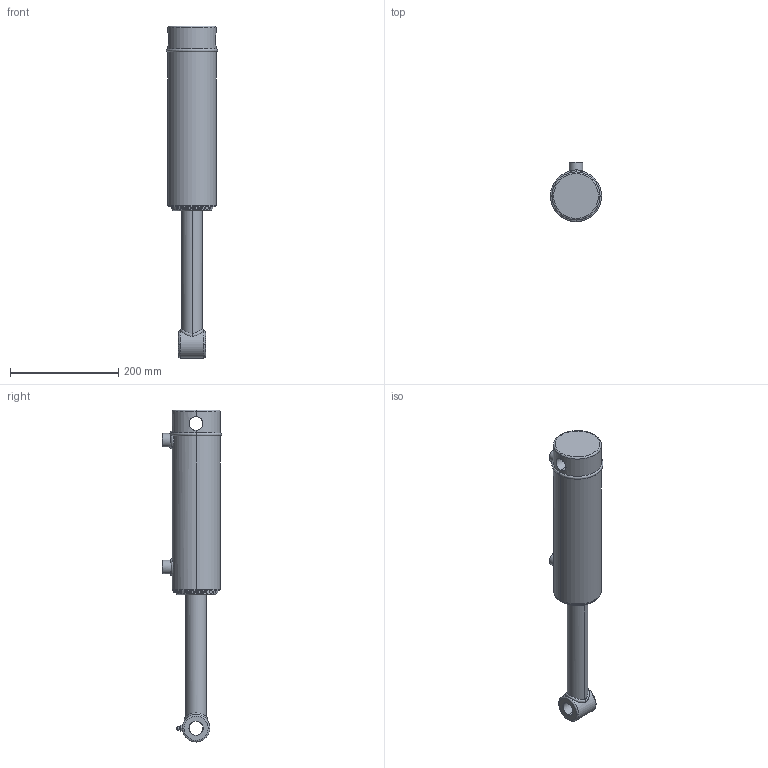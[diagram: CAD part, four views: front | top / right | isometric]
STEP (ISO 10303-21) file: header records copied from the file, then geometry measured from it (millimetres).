
FILE_DESCRIPTION (( 'STEP AP203' ), '1' );
FILE_NAME ('SB-C3001550x203 (8) extended.STEP', '2014-11-19T21:04:27', ( '' ), ( '' ), 'SwSTEP 2.0', 'SolidWorks 2014', '' );
FILE_SCHEMA (( 'CONFIG_CONTROL_DESIGN' ));
Length unit declared in the file: millimetre
Products named in the file (7): 3 inch circlip; SB-C3001550x203 (8) body; 8 SPARE; 18 NPT GREASE NIPPLE; SPARE 8; SB-C3001550x203 (8) extended; SB-C300150x203 (8) BODY
Assembly tree (6 placements, depth 3):
  SB-C3001550x203 (8) extended
    SB-C3001550x203 (8) body
      SB-C300150x203 (8) BODY
      3 inch circlip
    SPARE 8
      8 SPARE
      18 NPT GREASE NIPPLE
Bounding box: 94.9 x 109.9 x 614.4 mm (x, y, z)
Volume: 2199986.5 mm3; surface area: 204518.9 mm2
Topology: 4 solids, 4 shells, 133 faces, 306 edges, 190 vertices
Faces by surface type: cylinder 51, plane 29, cone 22, bspline 18, torus 11, sphere 2
Entity records: 10452 total; most frequent: CARTESIAN_POINT 6772, DIRECTION 638, ORIENTED_EDGE 604, EDGE_CURVE 302, AXIS2_PLACEMENT_3D 270, VERTEX_POINT 190, EDGE_LOOP 158, CIRCLE 144
